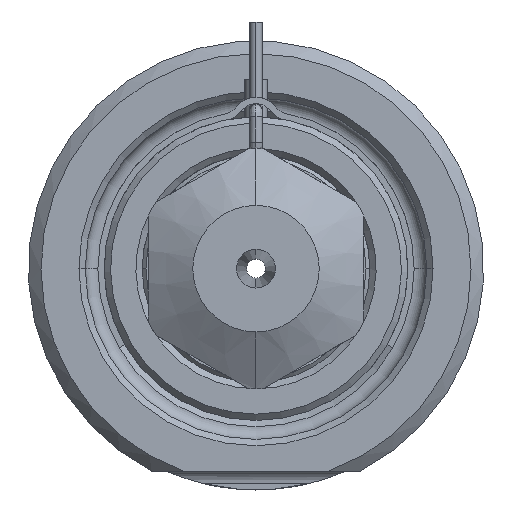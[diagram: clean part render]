
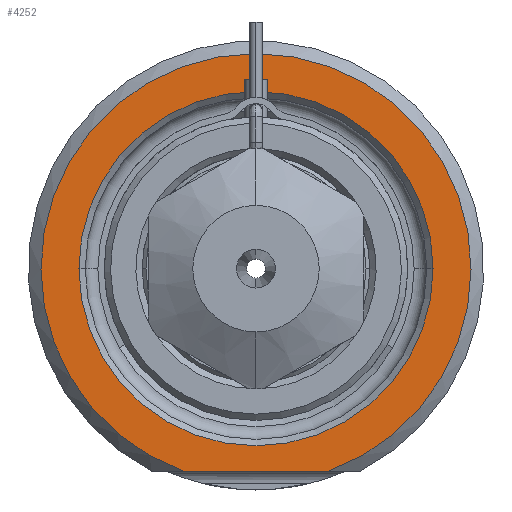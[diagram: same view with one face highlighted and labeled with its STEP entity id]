
A CAD part, front view. The second image highlights one B-rep face of the part: STEP entity #4252.
In plain terms, the highlighted planar face has unit normal (0, -1, 0).
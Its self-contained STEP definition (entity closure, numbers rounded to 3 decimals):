
#1332=CARTESIAN_POINT('',(0.,0.,0.));
#1333=DIRECTION('',(0.,-1.,0.));
#1334=DIRECTION('',(0.338,0.,-0.941));
#1335=AXIS2_PLACEMENT_3D('',#1332,#1333,#1334);
#1356=DIRECTION('',(1.,0.,0.));
#1357=VECTOR('',#1356,11.489);
#1358=CARTESIAN_POINT('',(-5.745,0.,-16.));
#1359=LINE('',#1358,#1357);
#1360=CARTESIAN_POINT('',(0.,0.,0.));
#1361=DIRECTION('',(0.,1.,0.));
#1362=DIRECTION('',(-1.,0.,0.));
#1363=AXIS2_PLACEMENT_3D('',#1360,#1361,#1362);
#1365=CARTESIAN_POINT('',(0.,0.,0.));
#1366=DIRECTION('',(0.,1.,0.));
#1367=DIRECTION('',(1.,0.,0.));
#1368=AXIS2_PLACEMENT_3D('',#1365,#1366,#1367);
#2254=CARTESIAN_POINT('',(-14.,0.,0.));
#2255=CARTESIAN_POINT('',(14.,0.,0.));
#2256=VERTEX_POINT('',#2254);
#2257=VERTEX_POINT('',#2255);
#2294=CARTESIAN_POINT('',(-5.745,0.,-16.));
#2295=CARTESIAN_POINT('',(5.745,0.,-16.));
#2296=VERTEX_POINT('',#2294);
#2297=VERTEX_POINT('',#2295);
#4237=CARTESIAN_POINT('',(0.,0.,0.));
#4238=DIRECTION('',(0.,-1.,0.));
#4239=DIRECTION('',(1.,0.,0.));
#4240=AXIS2_PLACEMENT_3D('',#4237,#4238,#4239);
#4241=PLANE('',#4240);
#4242=ORIENTED_EDGE('',*,*,#4169,.F.);
#4243=ORIENTED_EDGE('',*,*,#4229,.F.);
#4244=EDGE_LOOP('',(#4242,#4243));
#4245=FACE_OUTER_BOUND('',#4244,.F.);
#4247=ORIENTED_EDGE('',*,*,#4246,.F.);
#4249=ORIENTED_EDGE('',*,*,#4248,.F.);
#4250=EDGE_LOOP('',(#4247,#4249));
#4251=FACE_BOUND('',#4250,.F.);
#4252=ADVANCED_FACE('',(#4245,#4251),#4241,.T.);
#1336=CIRCLE('',#1335,17.);
#1364=CIRCLE('',#1363,14.);
#1369=CIRCLE('',#1368,14.);
#4169=EDGE_CURVE('',#2296,#2297,#1359,.T.);
#4229=EDGE_CURVE('',#2297,#2296,#1336,.T.);
#4246=EDGE_CURVE('',#2256,#2257,#1364,.T.);
#4248=EDGE_CURVE('',#2257,#2256,#1369,.T.);
